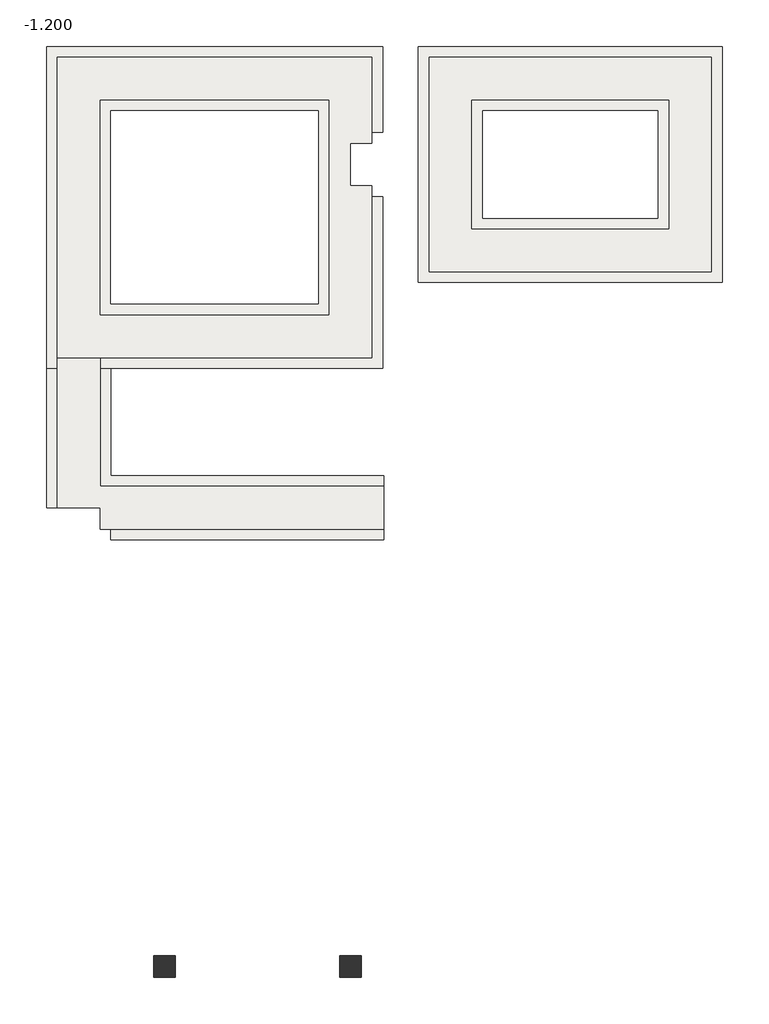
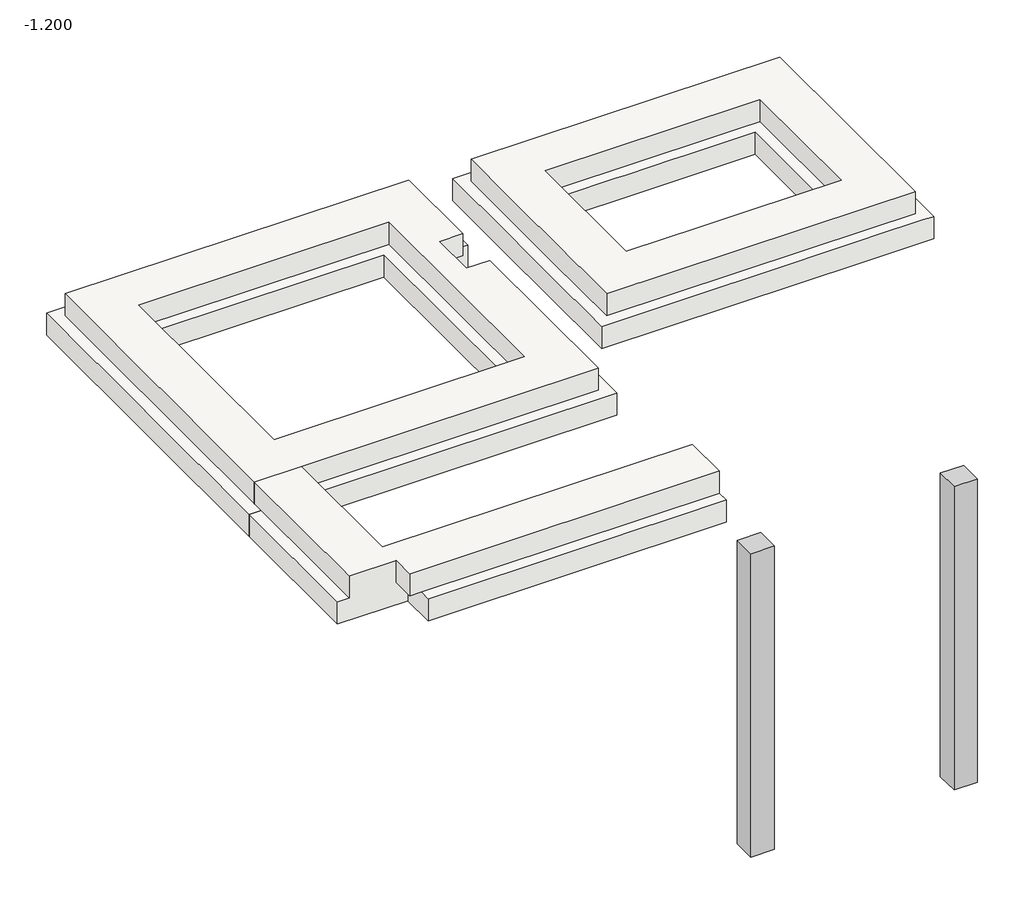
# One storey: 3 slabs, 2 columns.
"""IFC4 building model written with IfcOpenShell, lengths in millimetres."""

from ifc_helpers import new_model, si_unit, frame, origin, place, context, project, spatial, polyline, outline, extrude, transform, mapped, element, save
from components import slab_1_1_1_1_8aeb816e, slab_110_1_1_90071cbc, slab_111_1_1_0dc2f856

model = new_model("IFC4")

# Units and contexts
model_context = context("Model", 3, world=origin())
ifc_project = project(units=[si_unit("LENGTHUNIT", "METRE", prefix="MILLI")], contexts=[model_context])

# Site, building, storey
site = spatial("IfcSite", under=ifc_project)
building = spatial("IfcBuilding", under=site)
storey = spatial("IfcBuildingStorey", under=building, Name="-1.200", Elevation=-1200.0)

# Columns
placement = place(None, origin())
element("IfcColumn", 1, ObjectType="混凝土 - 矩形 - 柱 : GZ1 300X300", at=placement, inside=storey, context=model_context, shape_type="SweptSolid", body=[
    extrude(outline(polyline([(-15828.0662967, -10724.3219782), (-15828.0662967, -11024.3219782), (-16128.0662967, -11024.3219782), (-16128.0662967, -10724.3219782), (-15828.0662967, -10724.3219782)])), frame((0.0, 0.0, -900.0), z_axis=(0.0, 0.0, 1.0), x_axis=(1.0, 0.0, 0.0)), (0.0, 0.0, 1.0), 4110.0),
])
element("IfcColumn", 2, ObjectType="混凝土 - 矩形 - 柱 : GZ1 300X300", at=placement, inside=storey, context=model_context, shape_type="SweptSolid", body=[
    extrude(outline(polyline([(-13228.0662967, -10724.3219782), (-13228.0662967, -11024.3219782), (-13528.0662967, -11024.3219782), (-13528.0662967, -10724.3219782), (-13228.0662967, -10724.3219782)])), frame((0.0, 0.0, -900.0), z_axis=(0.0, 0.0, 1.0), x_axis=(1.0, 0.0, 0.0)), (0.0, 0.0, 1.0), 4110.0),
])

# Slabs
slab_1_1_1_1_shape = slab_1_1_1_1_8aeb816e(model_context)
element("IfcSlab", 3, ObjectType="1-1 : 1-1", at=placement, inside=storey, context=model_context, shape_type="MappedRepresentation", body=[
    mapped(slab_1_1_1_1_shape, transform((0.0, 0.0, 0.0), x_axis=(1.0, 0.0, 0.0), y_axis=(0.0, 1.0, 0.0), z_axis=(0.0, 0.0, 1.0))),
])
slab_110_1_1_shape = slab_110_1_1_90071cbc(model_context)
element("IfcSlab", 4, ObjectType="110 : 1-1", at=placement, inside=storey, context=model_context, shape_type="MappedRepresentation", body=[
    mapped(slab_110_1_1_shape, transform((0.0, 0.0, 0.0), x_axis=(1.0, 0.0, 0.0), y_axis=(0.0, 1.0, 0.0), z_axis=(0.0, 0.0, 1.0))),
])
slab_111_1_1_shape = slab_111_1_1_0dc2f856(model_context)
element("IfcSlab", 5, ObjectType="111 : 1-1", at=placement, inside=storey, context=model_context, shape_type="MappedRepresentation", body=[
    mapped(slab_111_1_1_shape, transform((0.0, 0.0, 0.0), x_axis=(1.0, 0.0, 0.0), y_axis=(0.0, 1.0, 0.0), z_axis=(0.0, 0.0, 1.0))),
])

save(model, "model.ifc")
